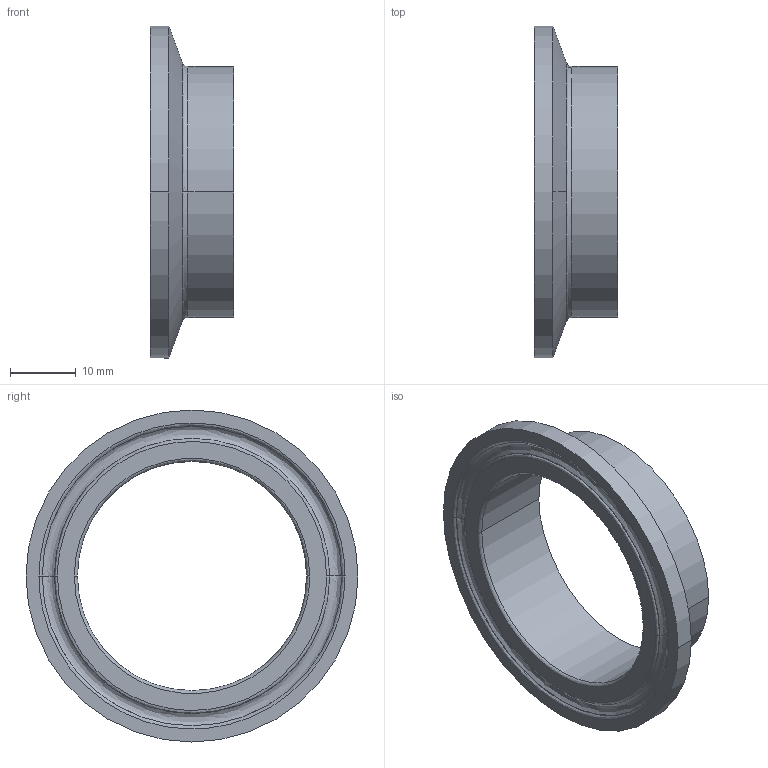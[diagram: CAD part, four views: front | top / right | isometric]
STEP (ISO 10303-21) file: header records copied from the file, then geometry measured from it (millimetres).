
FILE_DESCRIPTION (( 'STEP AP214' ), '1' );
FILE_NAME ('TEG2CS6L1.5.STEP', '2016-05-22T11:59:35', ( 'eran' ), ( '' ), 'SwSTEP 2.0', 'SolidWorks 2016', '' );
FILE_SCHEMA (( 'AUTOMOTIVE_DESIGN' ));
Length unit declared in the file: millimetre
Products named in the file (1): TEG2CS6L1.5
Bounding box: 12.7 x 50.39 x 50.39 mm (x, y, z)
Volume: 5569.8 mm3; surface area: 4931 mm2
Topology: 1 solids, 1 shells, 25 faces, 62 edges, 40 vertices
Faces by surface type: bspline 10, cylinder 6, cone 6, plane 3
Entity records: 1427 total; most frequent: CARTESIAN_POINT 802, DIRECTION 132, ORIENTED_EDGE 124, EDGE_CURVE 62, AXIS2_PLACEMENT_3D 60, CIRCLE 44, VERTEX_POINT 40, EDGE_LOOP 28
